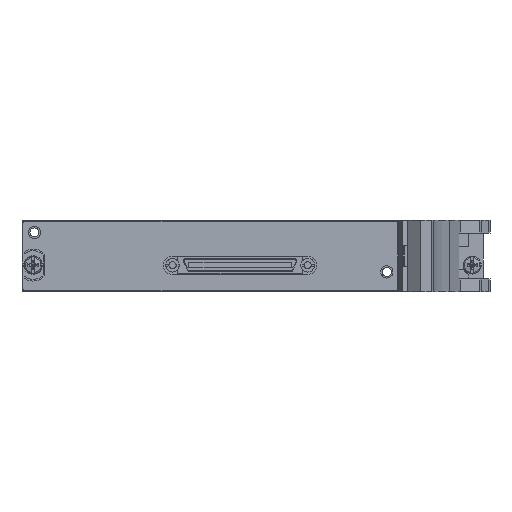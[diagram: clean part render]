
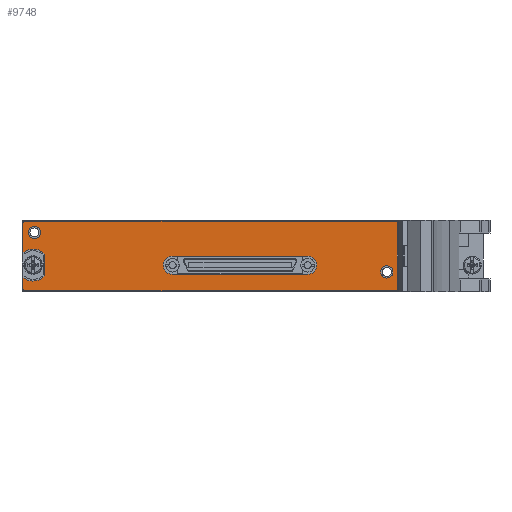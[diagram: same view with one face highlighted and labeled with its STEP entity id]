
A CAD part, left-side view. The second image highlights one B-rep face of the part: STEP entity #9748.
In plain terms, the highlighted planar face has unit normal (-1, 0, 0).
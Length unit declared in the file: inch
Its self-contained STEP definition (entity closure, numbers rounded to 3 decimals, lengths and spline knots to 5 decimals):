
#2553=CARTESIAN_POINT('',(-0.215,0.53465,0.665));
#2554=DIRECTION('',(-1.,0.,0.));
#2555=DIRECTION('',(0.,0.,1.));
#2556=AXIS2_PLACEMENT_3D('',#2553,#2554,#2555);
#2558=DIRECTION('',(0.,1.,0.));
#2559=VECTOR('',#2558,4.07);
#2560=CARTESIAN_POINT('',(-0.215,-3.53535,0.685));
#2561=LINE('',#2560,#2559);
#2562=CARTESIAN_POINT('',(-0.215,-3.53535,0.665));
#2563=DIRECTION('',(-1.,0.,0.));
#2564=DIRECTION('',(0.,-1.,0.));
#2565=AXIS2_PLACEMENT_3D('',#2562,#2563,#2564);
#2567=DIRECTION('',(0.,0.,1.));
#2568=VECTOR('',#2567,0.728);
#2569=CARTESIAN_POINT('',(-0.215,-3.55535,-0.063));
#2570=LINE('',#2569,#2568);
#2571=CARTESIAN_POINT('',(-0.215,-3.53535,-0.063));
#2572=DIRECTION('',(-1.,0.,0.));
#2573=DIRECTION('',(0.,0.,-1.));
#2574=AXIS2_PLACEMENT_3D('',#2571,#2572,#2573);
#2576=DIRECTION('',(0.,-1.,0.));
#2577=VECTOR('',#2576,4.07);
#2578=CARTESIAN_POINT('',(-0.215,0.53465,-0.083));
#2579=LINE('',#2578,#2577);
#2580=CARTESIAN_POINT('',(-0.215,0.53465,-0.063));
#2581=DIRECTION('',(-1.,0.,0.));
#2582=DIRECTION('',(0.,1.,0.));
#2583=AXIS2_PLACEMENT_3D('',#2580,#2581,#2582);
#2585=DIRECTION('',(0.,0.,-1.));
#2586=VECTOR('',#2585,0.12953);
#2587=CARTESIAN_POINT('',(-0.215,0.55465,0.06653));
#2588=LINE('',#2587,#2586);
#2589=CARTESIAN_POINT('',(-0.215,0.44265,0.201));
#2590=DIRECTION('',(1.,0.,0.));
#2591=DIRECTION('',(0.,-0.737,-0.676));
#2592=AXIS2_PLACEMENT_3D('',#2589,#2590,#2591);
#2594=DIRECTION('',(0.,0.,-1.));
#2595=VECTOR('',#2594,0.23651);
#2596=CARTESIAN_POINT('',(-0.215,0.31365,0.31925));
#2597=LINE('',#2596,#2595);
#2598=CARTESIAN_POINT('',(-0.215,0.44265,0.201));
#2599=DIRECTION('',(1.,0.,0.));
#2600=DIRECTION('',(0.,0.64,0.768));
#2601=AXIS2_PLACEMENT_3D('',#2598,#2599,#2600);
#2603=DIRECTION('',(0.,0.,-1.));
#2604=VECTOR('',#2603,0.32953);
#2605=CARTESIAN_POINT('',(-0.215,0.55465,0.665));
#2606=LINE('',#2605,#2604);
#2607=CARTESIAN_POINT('',(-0.215,-1.08735,0.1998));
#2608=DIRECTION('',(-1.,0.,0.));
#2609=DIRECTION('',(0.,0.,1.));
#2610=AXIS2_PLACEMENT_3D('',#2607,#2608,#2609);
#2612=DIRECTION('',(0.,-1.,0.));
#2613=VECTOR('',#2612,1.484);
#2614=CARTESIAN_POINT('',(-0.215,-1.08735,0.0998));
#2615=LINE('',#2614,#2613);
#2616=CARTESIAN_POINT('',(-0.215,-2.57135,0.1998));
#2617=DIRECTION('',(-1.,0.,0.));
#2618=DIRECTION('',(0.,0.,-1.));
#2619=AXIS2_PLACEMENT_3D('',#2616,#2617,#2618);
#2621=DIRECTION('',(0.,1.,0.));
#2622=VECTOR('',#2621,1.484);
#2623=CARTESIAN_POINT('',(-0.215,-2.57135,0.2998));
#2624=LINE('',#2623,#2622);
#2625=CARTESIAN_POINT('',(-0.215,-3.44035,0.126));
#2626=DIRECTION('',(-1.,0.,0.));
#2627=DIRECTION('',(0.,0.,1.));
#2628=AXIS2_PLACEMENT_3D('',#2625,#2626,#2627);
#2630=CARTESIAN_POINT('',(-0.215,-3.44035,0.126));
#2631=DIRECTION('',(-1.,0.,0.));
#2632=DIRECTION('',(0.,0.,-1.));
#2633=AXIS2_PLACEMENT_3D('',#2630,#2631,#2632);
#2635=CARTESIAN_POINT('',(-0.215,0.42865,0.56));
#2636=DIRECTION('',(-1.,0.,0.));
#2637=DIRECTION('',(0.,0.,1.));
#2638=AXIS2_PLACEMENT_3D('',#2635,#2636,#2637);
#2640=CARTESIAN_POINT('',(-0.215,0.42865,0.56));
#2641=DIRECTION('',(-1.,0.,0.));
#2642=DIRECTION('',(0.,0.,-1.));
#2643=AXIS2_PLACEMENT_3D('',#2640,#2641,#2642);
#5851=CARTESIAN_POINT('',(-0.215,0.53465,0.685));
#5852=CARTESIAN_POINT('',(-0.215,0.55465,0.665));
#5853=VERTEX_POINT('',#5851);
#5854=VERTEX_POINT('',#5852);
#5855=CARTESIAN_POINT('',(-0.215,0.55465,0.33547));
#5856=VERTEX_POINT('',#5855);
#5857=CARTESIAN_POINT('',(-0.215,0.31365,0.31925));
#5858=VERTEX_POINT('',#5857);
#5859=CARTESIAN_POINT('',(-0.215,0.31365,0.08275));
#5860=VERTEX_POINT('',#5859);
#5861=CARTESIAN_POINT('',(-0.215,0.55465,0.06653));
#5862=VERTEX_POINT('',#5861);
#5863=CARTESIAN_POINT('',(-0.215,0.55465,-0.063));
#5864=VERTEX_POINT('',#5863);
#5865=CARTESIAN_POINT('',(-0.215,0.53465,-0.083));
#5866=VERTEX_POINT('',#5865);
#5867=CARTESIAN_POINT('',(-0.215,-3.53535,-0.083));
#5868=VERTEX_POINT('',#5867);
#5869=CARTESIAN_POINT('',(-0.215,-3.55535,-0.063));
#5870=VERTEX_POINT('',#5869);
#5871=CARTESIAN_POINT('',(-0.215,-3.55535,0.665));
#5872=VERTEX_POINT('',#5871);
#5873=CARTESIAN_POINT('',(-0.215,-3.53535,0.685));
#5874=VERTEX_POINT('',#5873);
#5875=CARTESIAN_POINT('',(-0.215,-1.08735,0.2998));
#5876=CARTESIAN_POINT('',(-0.215,-1.08735,0.0998));
#5877=VERTEX_POINT('',#5875);
#5878=VERTEX_POINT('',#5876);
#5879=CARTESIAN_POINT('',(-0.215,-2.57135,0.0998));
#5880=VERTEX_POINT('',#5879);
#5881=CARTESIAN_POINT('',(-0.215,-2.57135,0.2998));
#5882=VERTEX_POINT('',#5881);
#5883=CARTESIAN_POINT('',(-0.215,-3.44035,0.1935));
#5884=CARTESIAN_POINT('',(-0.215,-3.44035,0.0585));
#5885=VERTEX_POINT('',#5883);
#5886=VERTEX_POINT('',#5884);
#5887=CARTESIAN_POINT('',(-0.215,0.42865,0.6275));
#5888=CARTESIAN_POINT('',(-0.215,0.42865,0.4925));
#5889=VERTEX_POINT('',#5887);
#5890=VERTEX_POINT('',#5888);
#9707=CARTESIAN_POINT('',(-0.215,0.44265,0.201));
#9708=DIRECTION('',(-1.,0.,0.));
#9709=DIRECTION('',(0.,0.,1.));
#9710=AXIS2_PLACEMENT_3D('',#9707,#9708,#9709);
#9711=PLANE('',#9710);
#9712=ORIENTED_EDGE('',*,*,#9547,.F.);
#9713=ORIENTED_EDGE('',*,*,#9562,.F.);
#9714=ORIENTED_EDGE('',*,*,#9576,.F.);
#9715=ORIENTED_EDGE('',*,*,#9590,.F.);
#9716=ORIENTED_EDGE('',*,*,#9604,.F.);
#9717=ORIENTED_EDGE('',*,*,#9618,.F.);
#9718=ORIENTED_EDGE('',*,*,#9632,.F.);
#9719=ORIENTED_EDGE('',*,*,#9646,.F.);
#9720=ORIENTED_EDGE('',*,*,#9660,.F.);
#9721=ORIENTED_EDGE('',*,*,#9674,.F.);
#9722=ORIENTED_EDGE('',*,*,#9688,.F.);
#9723=ORIENTED_EDGE('',*,*,#9701,.F.);
#9724=EDGE_LOOP('',(#9712,#9713,#9714,#9715,#9716,#9717,#9718,#9719,#9720,#9721,
#9722,#9723));
#9725=FACE_OUTER_BOUND('',#9724,.F.);
#9727=ORIENTED_EDGE('',*,*,#9726,.T.);
#9729=ORIENTED_EDGE('',*,*,#9728,.T.);
#9731=ORIENTED_EDGE('',*,*,#9730,.T.);
#9733=ORIENTED_EDGE('',*,*,#9732,.T.);
#9734=EDGE_LOOP('',(#9727,#9729,#9731,#9733));
#9735=FACE_BOUND('',#9734,.F.);
#9737=ORIENTED_EDGE('',*,*,#9736,.T.);
#9739=ORIENTED_EDGE('',*,*,#9738,.T.);
#9740=EDGE_LOOP('',(#9737,#9739));
#9741=FACE_BOUND('',#9740,.F.);
#9743=ORIENTED_EDGE('',*,*,#9742,.T.);
#9745=ORIENTED_EDGE('',*,*,#9744,.T.);
#9746=EDGE_LOOP('',(#9743,#9745));
#9747=FACE_BOUND('',#9746,.F.);
#9748=ADVANCED_FACE('',(#9725,#9735,#9741,#9747),#9711,.T.);
#2557=CIRCLE('',#2556,0.02);
#2566=CIRCLE('',#2565,0.02);
#2575=CIRCLE('',#2574,0.02);
#2584=CIRCLE('',#2583,0.02);
#2593=CIRCLE('',#2592,0.175);
#2602=CIRCLE('',#2601,0.175);
#2611=CIRCLE('',#2610,0.1);
#2620=CIRCLE('',#2619,0.1);
#2629=CIRCLE('',#2628,0.0675);
#2634=CIRCLE('',#2633,0.0675);
#2639=CIRCLE('',#2638,0.0675);
#2644=CIRCLE('',#2643,0.0675);
#9547=EDGE_CURVE('',#5853,#5854,#2557,.T.);
#9562=EDGE_CURVE('',#5874,#5853,#2561,.T.);
#9576=EDGE_CURVE('',#5872,#5874,#2566,.T.);
#9590=EDGE_CURVE('',#5870,#5872,#2570,.T.);
#9604=EDGE_CURVE('',#5868,#5870,#2575,.T.);
#9618=EDGE_CURVE('',#5866,#5868,#2579,.T.);
#9632=EDGE_CURVE('',#5864,#5866,#2584,.T.);
#9646=EDGE_CURVE('',#5862,#5864,#2588,.T.);
#9660=EDGE_CURVE('',#5860,#5862,#2593,.T.);
#9674=EDGE_CURVE('',#5858,#5860,#2597,.T.);
#9688=EDGE_CURVE('',#5856,#5858,#2602,.T.);
#9701=EDGE_CURVE('',#5854,#5856,#2606,.T.);
#9726=EDGE_CURVE('',#5877,#5878,#2611,.T.);
#9728=EDGE_CURVE('',#5878,#5880,#2615,.T.);
#9730=EDGE_CURVE('',#5880,#5882,#2620,.T.);
#9732=EDGE_CURVE('',#5882,#5877,#2624,.T.);
#9736=EDGE_CURVE('',#5885,#5886,#2629,.T.);
#9738=EDGE_CURVE('',#5886,#5885,#2634,.T.);
#9742=EDGE_CURVE('',#5889,#5890,#2639,.T.);
#9744=EDGE_CURVE('',#5890,#5889,#2644,.T.);
